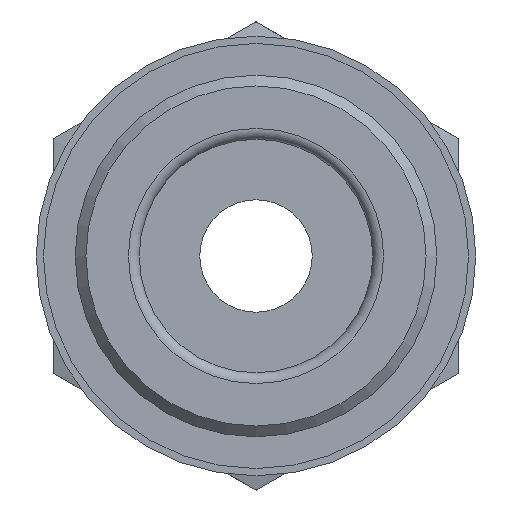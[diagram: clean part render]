
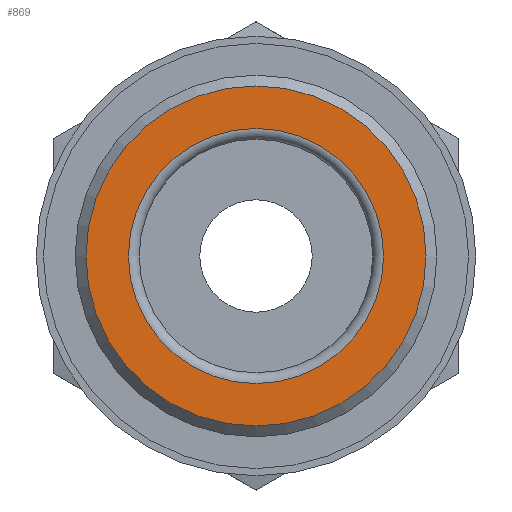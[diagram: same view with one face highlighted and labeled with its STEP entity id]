
A CAD part, left-side view. The second image highlights one B-rep face of the part: STEP entity #869.
In plain terms, the highlighted planar face has unit normal (-1, 0, 0).
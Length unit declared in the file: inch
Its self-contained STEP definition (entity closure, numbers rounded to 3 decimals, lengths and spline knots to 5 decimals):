
#21=PLANE('',#971);
#114=CIRCLE('',#972,0.354);
#115=CIRCLE('',#973,0.472);
#211=ORIENTED_EDGE('',*,*,#438,.T.);
#212=ORIENTED_EDGE('',*,*,#439,.F.);
#438=EDGE_CURVE('',#545,#545,#114,.T.);
#439=EDGE_CURVE('',#546,#546,#115,.T.);
#545=VERTEX_POINT('',#1484);
#546=VERTEX_POINT('',#1486);
#648=EDGE_LOOP('',(#211));
#649=EDGE_LOOP('',(#212));
#746=FACE_BOUND('',#648,.T.);
#747=FACE_BOUND('',#649,.T.);
#869=ADVANCED_FACE('',(#746,#747),#21,.T.);
#971=AXIS2_PLACEMENT_3D('',#1482,#1159,#1160);
#972=AXIS2_PLACEMENT_3D('',#1483,#1161,#1162);
#973=AXIS2_PLACEMENT_3D('',#1485,#1163,#1164);
#1159=DIRECTION('',(-1.,0.,0.));
#1160=DIRECTION('',(0.,0.,1.));
#1161=DIRECTION('',(1.,0.,0.));
#1162=DIRECTION('',(0.,0.,-1.));
#1163=DIRECTION('',(1.,0.,0.));
#1164=DIRECTION('',(0.,0.,-1.));
#1482=CARTESIAN_POINT('',(-0.03,0.472,0.));
#1483=CARTESIAN_POINT('',(-0.03,0.,0.));
#1484=CARTESIAN_POINT('',(-0.03,0.,-0.354));
#1485=CARTESIAN_POINT('',(-0.03,0.,0.));
#1486=CARTESIAN_POINT('',(-0.03,0.,-0.472));
